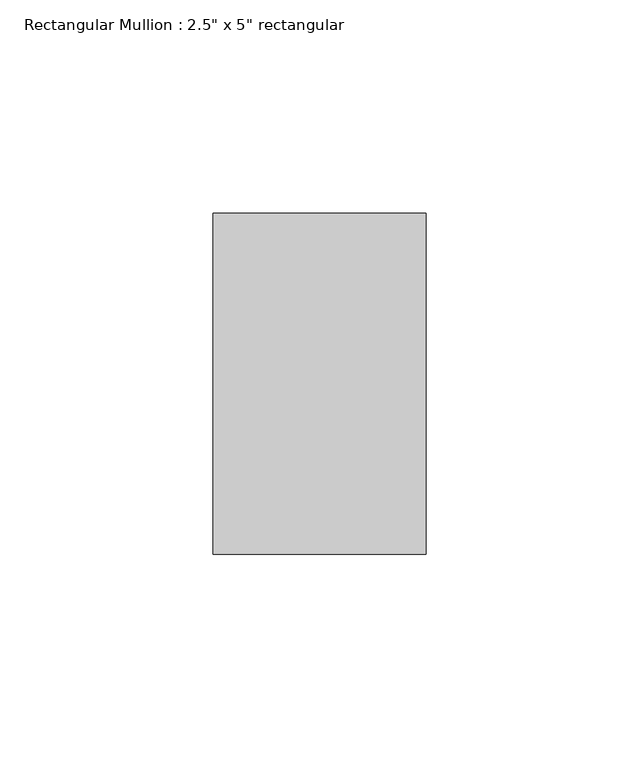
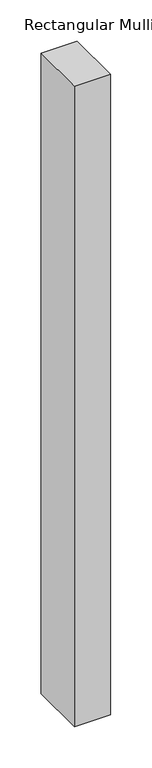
"""IFC4 building model written with IfcOpenShell, lengths in millimetres: member geometry."""

from ifc_helpers import new_model, si_unit, frame, origin, place, context, project, spatial, polyline, outline, extrude, source, transform, mapped, element, save


def member_adb27334(model_context):
    return source(origin(), model_context, "Body", "SweptSolid", [
        extrude(outline(polyline([(0.0, 40.0), (0.0, -40.0), (-50.0, -40.0), (-50.0, 40.0), (0.0, 40.0)])), frame((0.0, 0.0, -941.9999999), z_axis=(0.0, 0.0, 1.0), x_axis=(1.0, 0.0, 0.0)), (0.0, 0.0, 1.0), 941.9999999),
    ])


if __name__ == "__main__":
    model = new_model("IFC4")
    model_context = context("Model", 3, world=origin())
    ifc_project = project(units=[si_unit("LENGTHUNIT", "METRE", prefix="MILLI")], contexts=[model_context])
    site = spatial("IfcSite", under=ifc_project)
    building = spatial("IfcBuilding", under=site)
    placement = place(None, origin())
    member_shape = member_adb27334(model_context)
    element("IfcMember", 1, ObjectType="Rectangular Mullion : 2.5\" x 5\" rectangular", at=placement, inside=building, context=model_context, shape_type="MappedRepresentation", body=[
        mapped(member_shape, transform((0.0, 0.0, 0.0), x_axis=(1.0, 0.0, 0.0), y_axis=(0.0, 1.0, 0.0), z_axis=(0.0, 0.0, 1.0))),
    ])
    save(model, "model.ifc")
